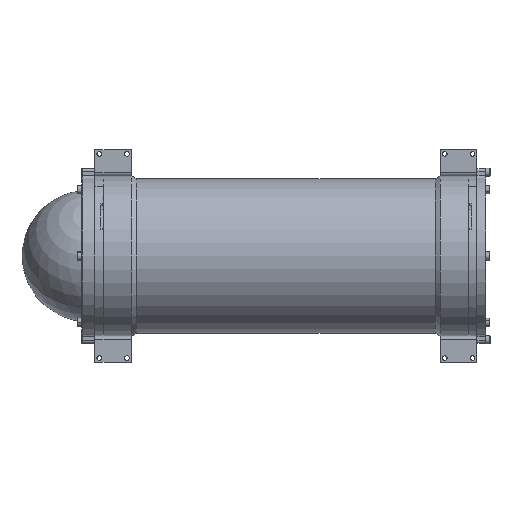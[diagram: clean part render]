
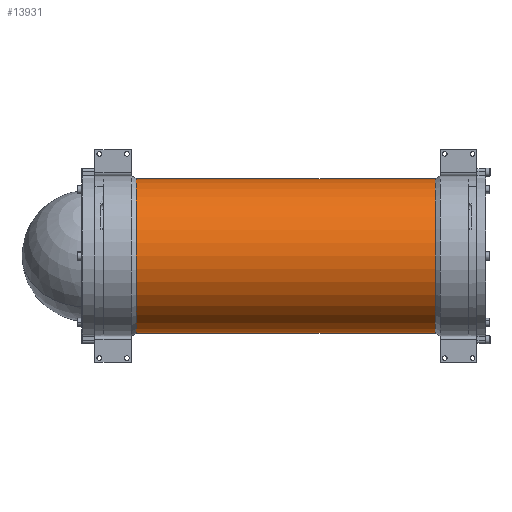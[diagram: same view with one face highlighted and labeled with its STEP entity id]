
A CAD part, left-side view. The second image highlights one B-rep face of the part: STEP entity #13931.
In plain terms, the highlighted cylindrical face has radius 53 mm (diameter 106 mm), a partial arc.
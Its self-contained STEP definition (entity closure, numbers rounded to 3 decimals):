
#964 = DIRECTION ( 'NONE',  ( 0., 1., 0. ) ) ;
#1151 = CYLINDRICAL_SURFACE ( 'NONE', #3090, 53. ) ;
#1203 = ORIENTED_EDGE ( 'NONE', *, *, #7557, .T. ) ;
#1210 = CARTESIAN_POINT ( 'NONE',  ( 0., 227.536, 0. ) ) ;
#1439 = DIRECTION ( 'NONE',  ( 0., 1., 0. ) ) ;
#1500 = VERTEX_POINT ( 'NONE', #2074 ) ;
#1655 = EDGE_LOOP ( 'NONE', ( #9890, #5749, #11455, #1203 ) ) ;
#2074 = CARTESIAN_POINT ( 'NONE',  ( 0., 22.464, 53. ) ) ;
#2155 = DIRECTION ( 'NONE',  ( 0., 0., 1. ) ) ;
#2187 = FACE_OUTER_BOUND ( 'NONE', #1655, .T. ) ;
#2261 = DIRECTION ( 'NONE',  ( 0., 0., 1. ) ) ;
#2918 = LINE ( 'NONE', #13485, #3203 ) ;
#3082 = VERTEX_POINT ( 'NONE', #8508 ) ;
#3090 = AXIS2_PLACEMENT_3D ( 'NONE', #6994, #11770, #2261 ) ;
#3203 = VECTOR ( 'NONE', #1439, 1000. ) ;
#3714 = CARTESIAN_POINT ( 'NONE',  ( 0., -200.048, -53. ) ) ;
#3809 = VERTEX_POINT ( 'NONE', #15087 ) ;
#4522 = CARTESIAN_POINT ( 'NONE',  ( 0., 22.464, 0. ) ) ;
#4982 = DIRECTION ( 'NONE',  ( 0., 1., 0. ) ) ;
#5182 = EDGE_CURVE ( 'NONE', #3809, #1500, #14812, .T. ) ;
#5749 = ORIENTED_EDGE ( 'NONE', *, *, #5182, .T. ) ;
#5912 = CIRCLE ( 'NONE', #14690, 53. ) ;
#6994 = CARTESIAN_POINT ( 'NONE',  ( 0., -200.048, 0. ) ) ;
#7010 = VERTEX_POINT ( 'NONE', #7705 ) ;
#7557 = EDGE_CURVE ( 'NONE', #7010, #3082, #5912, .T. ) ;
#7705 = CARTESIAN_POINT ( 'NONE',  ( 0., 227.536, 53. ) ) ;
#8508 = CARTESIAN_POINT ( 'NONE',  ( 0., 227.536, -53. ) ) ;
#8716 = EDGE_CURVE ( 'NONE', #3809, #3082, #9709, .T. ) ;
#9292 = AXIS2_PLACEMENT_3D ( 'NONE', #4522, #964, #2155 ) ;
#9709 = LINE ( 'NONE', #3714, #12275 ) ;
#9890 = ORIENTED_EDGE ( 'NONE', *, *, #8716, .F. ) ;
#11455 = ORIENTED_EDGE ( 'NONE', *, *, #11563, .T. ) ;
#11563 = EDGE_CURVE ( 'NONE', #1500, #7010, #2918, .T. ) ;
#11770 = DIRECTION ( 'NONE',  ( 0., 1., 0. ) ) ;
#12275 = VECTOR ( 'NONE', #4982, 1000. ) ;
#13257 = DIRECTION ( 'NONE',  ( 0., -1., 0. ) ) ;
#13406 = DIRECTION ( 'NONE',  ( 0., 0., 1. ) ) ;
#13485 = CARTESIAN_POINT ( 'NONE',  ( 0., -200.048, 53. ) ) ;
#13931 = ADVANCED_FACE ( 'NONE', ( #2187 ), #1151, .T. ) ;
#14690 = AXIS2_PLACEMENT_3D ( 'NONE', #1210, #13257, #13406 ) ;
#14812 = CIRCLE ( 'NONE', #9292, 53. ) ;
#15087 = CARTESIAN_POINT ( 'NONE',  ( 0., 22.464, -53. ) ) ;
